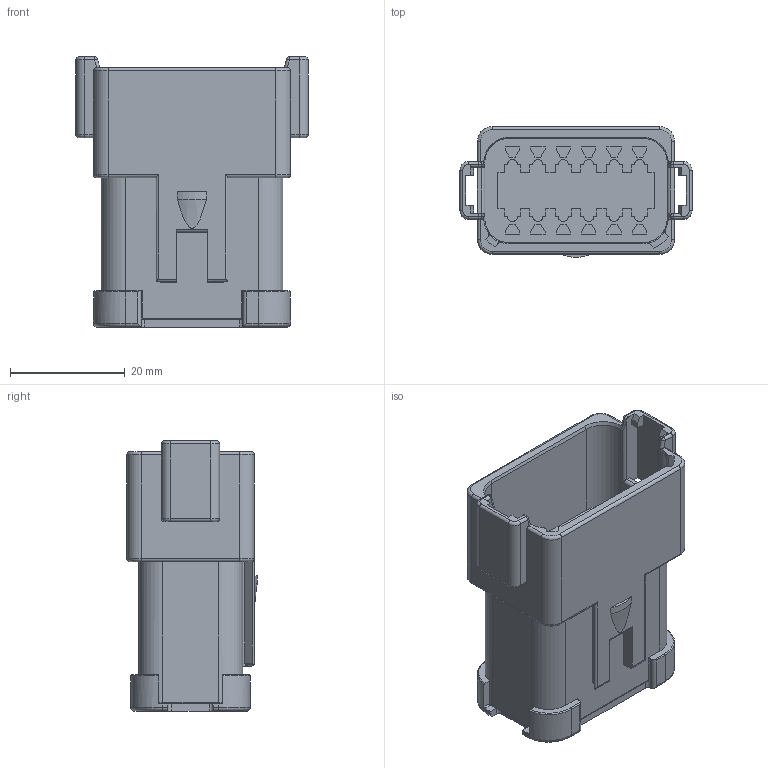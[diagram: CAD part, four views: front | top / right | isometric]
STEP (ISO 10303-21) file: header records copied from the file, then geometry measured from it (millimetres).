
FILE_DESCRIPTION((''),'2;1');
FILE_NAME('C-DT04-12PA-E003','2013-06-18T',('workeradm'),('Tyco Electronics Ltd.'),'PRO/ENGINEER BY PARAMETRIC TECHNOLOGY CORPORATION, 2011490','PRO/ENGINEER BY PARAMETRIC TECHNOLOGY CORPORATION, 2011490','');
FILE_SCHEMA(('AUTOMOTIVE_DESIGN { 1 0 10303 214 1 1 1 1 }'));
Length unit declared in the file: millimetre
Products named in the file (1): C-DT04-12PA-E003
Bounding box: 40.56 x 22.76 x 47.19 mm (x, y, z)
Volume: 19006.3 mm3; surface area: 9591 mm2
Topology: 1 solids, 1 shells, 675 faces, 1760 edges, 1123 vertices
Faces by surface type: plane 401, cylinder 175, torus 82, cone 7, sphere 6, bspline 4
Entity records: 22866 total; most frequent: CARTESIAN_POINT 5706, ORIENTED_EDGE 3520, DIRECTION 3500, EDGE_CURVE 1760, VECTOR 1234, LINE 1234, AXIS2_PLACEMENT_3D 1133, VERTEX_POINT 1123
